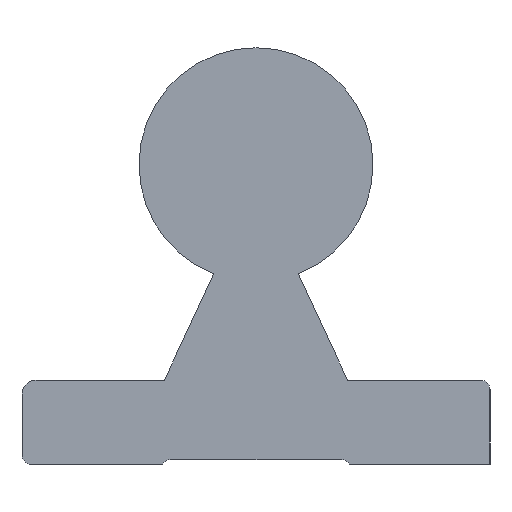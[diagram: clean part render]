
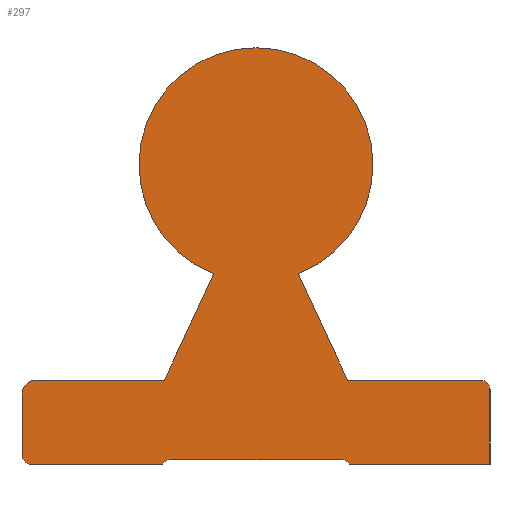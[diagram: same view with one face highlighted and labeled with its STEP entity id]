
A CAD part, left-side view. The second image highlights one B-rep face of the part: STEP entity #297.
In plain terms, the highlighted planar face has unit normal (-1, 0, 0).
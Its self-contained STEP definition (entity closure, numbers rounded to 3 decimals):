
#49=CARTESIAN_POINT('',(0.0,-9.134,0.5));
#50=VERTEX_POINT('',#49);
#51=CARTESIAN_POINT('',(0.0,-10.0,0.0));
#52=VERTEX_POINT('',#51);
#53=CARTESIAN_POINT('',(0.0,-9.134,-0.5));
#54=DIRECTION('',(-1.0,0.0,0.0));
#55=DIRECTION('',(0.0,-0.866,0.5));
#56=AXIS2_PLACEMENT_3D('',#53,#54,#55);
#57=CIRCLE('',#56,1.0);
#58=EDGE_CURVE('',#50,#52,#57,.F.);
#102=CARTESIAN_POINT('',(0.0,9.134,0.5));
#103=VERTEX_POINT('',#102);
#110=CARTESIAN_POINT('',(0.0,10.0,0.0));
#111=VERTEX_POINT('',#110);
#112=CARTESIAN_POINT('',(0.0,9.134,-0.5));
#113=DIRECTION('',(-1.0,0.0,0.0));
#114=DIRECTION('',(0.0,0.866,0.5));
#115=AXIS2_PLACEMENT_3D('',#112,#113,#114);
#116=CIRCLE('',#115,1.0);
#117=EDGE_CURVE('',#111,#103,#116,.F.);
#144=CARTESIAN_POINT('',(0.0,24.,0.0));
#145=VERTEX_POINT('',#144);
#152=CARTESIAN_POINT('',(0.0,25.0,1.0));
#153=VERTEX_POINT('',#152);
#154=CARTESIAN_POINT('',(0.0,24.,1.0));
#155=DIRECTION('',(1.,0.0,0.0));
#156=DIRECTION('',(0.0,0.707,-0.707));
#157=AXIS2_PLACEMENT_3D('',#154,#155,#156);
#158=CIRCLE('',#157,1.);
#159=EDGE_CURVE('',#145,#153,#158,.T.);
#176=CARTESIAN_POINT('',(0.0,25.0,7.5));
#177=VERTEX_POINT('',#176);
#178=CARTESIAN_POINT('',(0.0,25.0,1.0));
#179=DIRECTION('',(0.0,0.0,1.0));
#180=VECTOR('',#179,6.5);
#181=LINE('',#178,#180);
#182=EDGE_CURVE('',#153,#177,#181,.T.);
#201=CARTESIAN_POINT('',(0.0,17.5,0.25));
#202=DIRECTION('',(1.0,0.0,0.0));
#203=DIRECTION('',(0.0,0.0,-1.0));
#204=AXIS2_PLACEMENT_3D('',#201,#202,#203);
#205=PLANE('',#204);
#206=ORIENTED_EDGE('',*,*,#159,.F.);
#207=CARTESIAN_POINT('',(0.0,10.0,0.0));
#208=DIRECTION('',(0.0,1.0,0.0));
#209=VECTOR('',#208,14.);
#210=LINE('',#207,#209);
#211=EDGE_CURVE('',#111,#145,#210,.T.);
#212=ORIENTED_EDGE('',*,*,#211,.F.);
#213=ORIENTED_EDGE('',*,*,#117,.T.);
#214=CARTESIAN_POINT('',(0.0,-9.134,0.5));
#215=DIRECTION('',(0.0,1.0,0.0));
#216=VECTOR('',#215,18.268);
#217=LINE('',#214,#216);
#218=EDGE_CURVE('',#50,#103,#217,.T.);
#219=ORIENTED_EDGE('',*,*,#218,.F.);
#220=ORIENTED_EDGE('',*,*,#58,.T.);
#221=CARTESIAN_POINT('',(0.0,-25.0,0.0));
#222=VERTEX_POINT('',#221);
#223=CARTESIAN_POINT('',(0.0,-25.0,0.0));
#224=DIRECTION('',(0.0,1.0,0.0));
#225=VECTOR('',#224,15.0);
#226=LINE('',#223,#225);
#227=EDGE_CURVE('',#222,#52,#226,.T.);
#228=ORIENTED_EDGE('',*,*,#227,.F.);
#229=CARTESIAN_POINT('',(0.0,-25.0,8.));
#230=VERTEX_POINT('',#229);
#231=CARTESIAN_POINT('',(0.0,-25.0,8.));
#232=DIRECTION('',(0.0,0.0,-1.0));
#233=VECTOR('',#232,8.);
#234=LINE('',#231,#233);
#235=EDGE_CURVE('',#230,#222,#234,.T.);
#236=ORIENTED_EDGE('',*,*,#235,.F.);
#237=CARTESIAN_POINT('',(0.0,-24.,9.));
#238=VERTEX_POINT('',#237);
#239=CARTESIAN_POINT('',(0.0,-24.,8.));
#240=DIRECTION('',(1.0,0.0,0.0));
#241=DIRECTION('',(0.0,-0.707,0.707));
#242=AXIS2_PLACEMENT_3D('',#239,#240,#241);
#243=CIRCLE('',#242,1.0);
#244=EDGE_CURVE('',#238,#230,#243,.T.);
#245=ORIENTED_EDGE('',*,*,#244,.F.);
#246=CARTESIAN_POINT('',(0.0,-9.787,9.0));
#247=VERTEX_POINT('',#246);
#248=CARTESIAN_POINT('',(0.0,-9.787,9.0));
#249=DIRECTION('',(0.0,-1.0,0.0));
#250=VECTOR('',#249,14.213);
#251=LINE('',#248,#250);
#252=EDGE_CURVE('',#247,#238,#251,.T.);
#253=ORIENTED_EDGE('',*,*,#252,.F.);
#254=CARTESIAN_POINT('',(0.0,-4.5,20.338));
#255=VERTEX_POINT('',#254);
#256=CARTESIAN_POINT('',(0.0,-4.5,20.338));
#257=DIRECTION('',(0.0,-0.423,-0.906));
#258=VECTOR('',#257,12.51);
#259=LINE('',#256,#258);
#260=EDGE_CURVE('',#255,#247,#259,.T.);
#261=ORIENTED_EDGE('',*,*,#260,.F.);
#262=CARTESIAN_POINT('',(0.0,4.5,20.338));
#263=VERTEX_POINT('',#262);
#264=CARTESIAN_POINT('',(0.0,0.,32.0));
#265=DIRECTION('',(1.0,0.0,0.0));
#266=DIRECTION('',(0.0,1.0,0.0));
#267=AXIS2_PLACEMENT_3D('',#264,#265,#266);
#268=CIRCLE('',#267,12.5);
#269=EDGE_CURVE('',#263,#255,#268,.T.);
#270=ORIENTED_EDGE('',*,*,#269,.F.);
#271=CARTESIAN_POINT('',(0.0,9.787,9.0));
#272=VERTEX_POINT('',#271);
#273=CARTESIAN_POINT('',(0.0,9.787,9.0));
#274=DIRECTION('',(0.0,-0.423,0.906));
#275=VECTOR('',#274,12.51);
#276=LINE('',#273,#275);
#277=EDGE_CURVE('',#272,#263,#276,.T.);
#278=ORIENTED_EDGE('',*,*,#277,.F.);
#279=CARTESIAN_POINT('',(0.0,23.5,9.));
#280=VERTEX_POINT('',#279);
#281=CARTESIAN_POINT('',(0.0,23.5,9.));
#282=DIRECTION('',(0.0,-1.0,0.0));
#283=VECTOR('',#282,13.713);
#284=LINE('',#281,#283);
#285=EDGE_CURVE('',#280,#272,#284,.T.);
#286=ORIENTED_EDGE('',*,*,#285,.F.);
#287=CARTESIAN_POINT('',(0.0,23.5,7.5));
#288=DIRECTION('',(1.0,0.0,0.0));
#289=DIRECTION('',(0.0,0.707,0.707));
#290=AXIS2_PLACEMENT_3D('',#287,#288,#289);
#291=CIRCLE('',#290,1.5);
#292=EDGE_CURVE('',#177,#280,#291,.T.);
#293=ORIENTED_EDGE('',*,*,#292,.F.);
#294=ORIENTED_EDGE('',*,*,#182,.F.);
#295=EDGE_LOOP('',(#206,#212,#213,#219,#220,#228,#236,#245,#253,#261,#270,#278,#286,#293,#294));
#296=FACE_OUTER_BOUND('',#295,.T.);
#297=ADVANCED_FACE('',(#296),#205,.F.);
